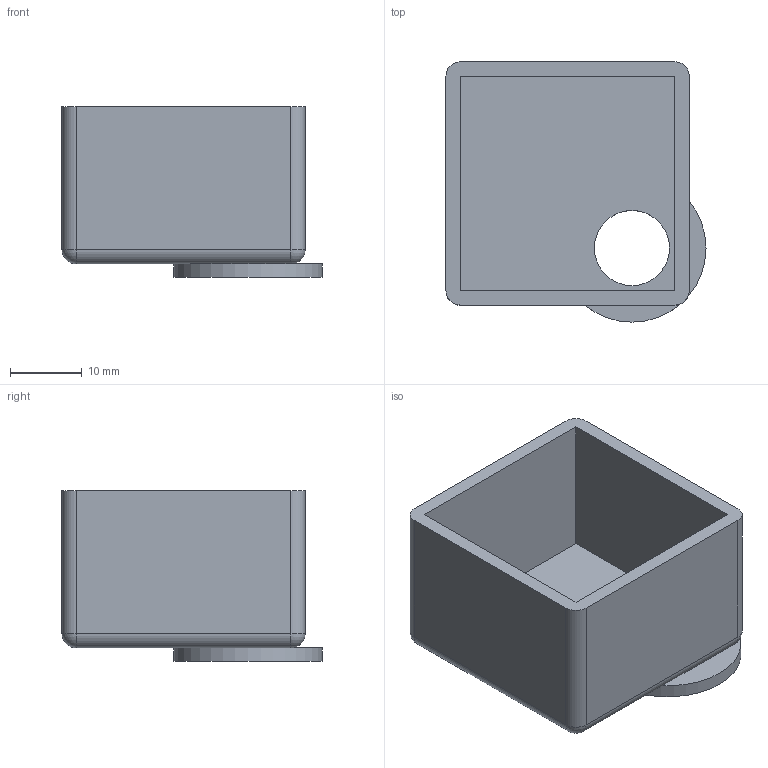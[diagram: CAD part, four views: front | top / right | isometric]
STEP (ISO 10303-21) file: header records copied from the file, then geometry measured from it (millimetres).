
FILE_DESCRIPTION(('STEP AP214'),'1');
FILE_NAME('EC30-H10.stp','2017-07-24T04:44:30',(' '),(' '),'Spatial InterOp 3D',' ',' ');
FILE_SCHEMA(('automotive_design'));
Length unit declared in the file: millimetre
Products named in the file (3): EC30-H10; M10PW
Assembly tree (2 placements, depth 2):
  EC30-H10
    EC30-H10
    M10PW
Bounding box: 36.35 x 36.35 x 23.9 mm (x, y, z)
Volume: 7546.8 mm3; surface area: 8084.9 mm2
Topology: 2 solids, 2 shells, 28 faces, 61 edges, 34 vertices
Faces by surface type: plane 13, cylinder 11, sphere 4
Full cylindrical faces by diameter (mm): 10.5 x2, 20.7 x1
Entity records: 1008 total; most frequent: DIRECTION 138, CARTESIAN_POINT 119, ORIENTED_EDGE 108, EDGE_CURVE 54, AXIS2_PLACEMENT_3D 53, EDGE_LOOP 36, VERTEX_POINT 34, LINE 32
